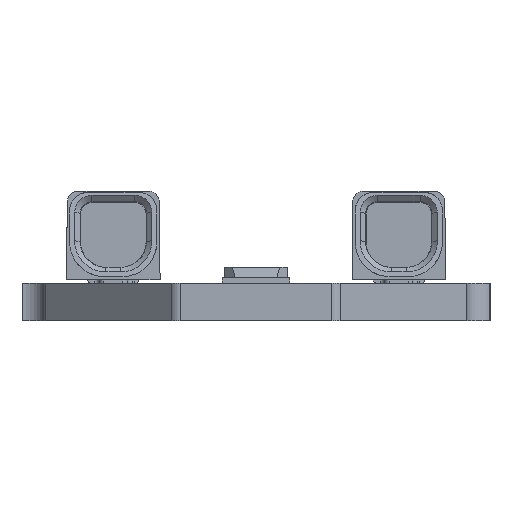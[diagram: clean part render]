
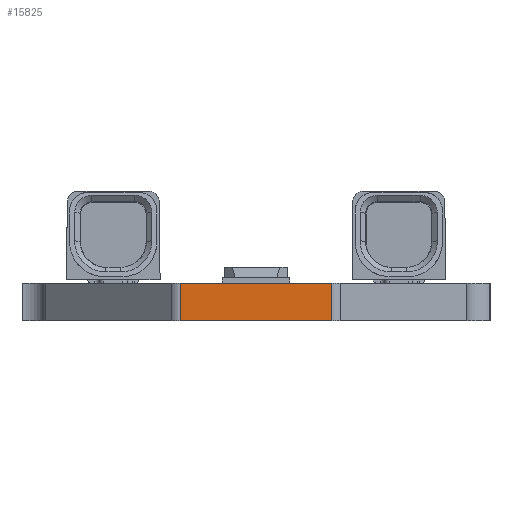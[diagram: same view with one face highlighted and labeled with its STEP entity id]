
A CAD part, left-side view. The second image highlights one B-rep face of the part: STEP entity #15825.
In plain terms, the highlighted planar face has unit normal (-1, 0, 0).
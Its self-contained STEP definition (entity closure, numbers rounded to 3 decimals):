
#856 = DIRECTION ( 'NONE',  ( 0., 0., -1. ) ) ;
#950 = EDGE_CURVE ( 'NONE', #5637, #16020, #3501, .T. ) ;
#1154 = CARTESIAN_POINT ( 'NONE',  ( 0., 13.243, 1.6 ) ) ;
#1585 = VERTEX_POINT ( 'NONE', #17048 ) ;
#2862 = LINE ( 'NONE', #19741, #19081 ) ;
#3259 = CARTESIAN_POINT ( 'NONE',  ( 0., 13.243, 0. ) ) ;
#3501 = LINE ( 'NONE', #3887, #11765 ) ;
#3588 = CARTESIAN_POINT ( 'NONE',  ( 0., 6.757, 0. ) ) ;
#3887 = CARTESIAN_POINT ( 'NONE',  ( 0., 13.243, 0. ) ) ;
#5164 = EDGE_CURVE ( 'NONE', #15859, #1585, #17885, .T. ) ;
#5637 = VERTEX_POINT ( 'NONE', #3259 ) ;
#6764 = AXIS2_PLACEMENT_3D ( 'NONE', #1154, #18449, #8932 ) ;
#7413 = PLANE ( 'NONE',  #6764 ) ;
#8932 = DIRECTION ( 'NONE',  ( 0., 0., -1. ) ) ;
#11167 = LINE ( 'NONE', #14756, #15489 ) ;
#11765 = VECTOR ( 'NONE', #20461, 1000. ) ;
#12170 = ORIENTED_EDGE ( 'NONE', *, *, #950, .T. ) ;
#12621 = CARTESIAN_POINT ( 'NONE',  ( 0., 13.243, 1.6 ) ) ;
#13046 = DIRECTION ( 'NONE',  ( 0., 0., -1. ) ) ;
#13077 = DIRECTION ( 'NONE',  ( 0., -1., 0. ) ) ;
#13153 = VECTOR ( 'NONE', #13077, 1000. ) ;
#13451 = ORIENTED_EDGE ( 'NONE', *, *, #5164, .F. ) ;
#13894 = CARTESIAN_POINT ( 'NONE',  ( 0., 13.243, 1.6 ) ) ;
#14756 = CARTESIAN_POINT ( 'NONE',  ( 0., 13.243, 1.6 ) ) ;
#15210 = ORIENTED_EDGE ( 'NONE', *, *, #17876, .F. ) ;
#15489 = VECTOR ( 'NONE', #13046, 1000. ) ;
#15524 = EDGE_LOOP ( 'NONE', ( #12170, #15210, #13451, #15668 ) ) ;
#15649 = EDGE_CURVE ( 'NONE', #15859, #5637, #11167, .T. ) ;
#15668 = ORIENTED_EDGE ( 'NONE', *, *, #15649, .T. ) ;
#15825 = ADVANCED_FACE ( 'NONE', ( #19651 ), #7413, .F. ) ;
#15859 = VERTEX_POINT ( 'NONE', #13894 ) ;
#16020 = VERTEX_POINT ( 'NONE', #3588 ) ;
#17048 = CARTESIAN_POINT ( 'NONE',  ( 0., 6.757, 1.6 ) ) ;
#17876 = EDGE_CURVE ( 'NONE', #1585, #16020, #2862, .T. ) ;
#17885 = LINE ( 'NONE', #12621, #13153 ) ;
#18449 = DIRECTION ( 'NONE',  ( 1., 0., 0. ) ) ;
#19081 = VECTOR ( 'NONE', #856, 1000. ) ;
#19651 = FACE_OUTER_BOUND ( 'NONE', #15524, .T. ) ;
#19741 = CARTESIAN_POINT ( 'NONE',  ( 0., 6.757, 1.6 ) ) ;
#20461 = DIRECTION ( 'NONE',  ( 0., -1., 0. ) ) ;
